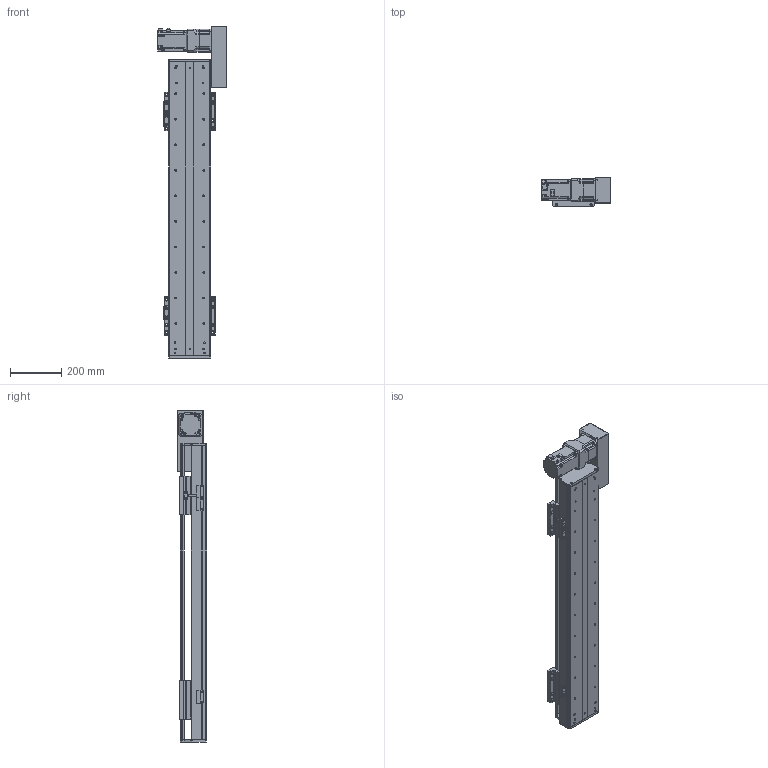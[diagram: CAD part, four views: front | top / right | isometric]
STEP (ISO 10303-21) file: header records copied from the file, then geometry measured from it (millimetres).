
FILE_DESCRIPTION(/* description */ (''),/* implementation_level */ '2;1');
FILE_NAME(/* name */ 'C:\Users\PC\Desktop\3D도면\STEP\DSB165-R7G-W0800-L.stp',/* time_stamp */ '2018-06-25T14:38:04+09:00',/* author */ ('PC'),/* organization */ (''),/* preprocessor_version */ 'ST-DEVELOPER v16.5',/* originating_system */ 'Autodesk Inventor 2017',/* authorisation */ '');
FILE_SCHEMA (('AUTOMOTIVE_DESIGN { 1 0 10303 214 3 1 1 }'));
Length unit declared in the file: millimetre
Products named in the file (12): DSB165-L7G-W0800-R_MIR; DSB165-BASE-L_MIR; hg-kr73__MIR; ab0901-p0401300102_MIR; 11-DSB165 BELT COVER_MIR; 12-DSB165-REAR COVER_MIR; 14-DSB165-FRONT COVER_MIR; DSB165-UP COVER_MIR; DSB165-TABLE(MSB20S)_MIR; DSR165-SENSOR DOG_MIR; pm-y65_step_MIR; SENSOR BRACKET(EE-SX674A)_MIR
Assembly tree (16 placements, depth 2):
  DSB165-L7G-W0800-R_MIR
    DSB165-BASE-L_MIR
    hg-kr73__MIR
    ab0901-p0401300102_MIR
    11-DSB165 BELT COVER_MIR
    12-DSB165-REAR COVER_MIR
    14-DSB165-FRONT COVER_MIR
    DSB165-UP COVER_MIR
    DSB165-TABLE(MSB20S)_MIR  x2
    DSR165-SENSOR DOG_MIR
    pm-y65_step_MIR  x3
    SENSOR BRACKET(EE-SX674A)_MIR  x3
Bounding box: 270 x 115 x 1300 mm (x, y, z)
Volume: 7952813.6 mm3; surface area: 1836013.6 mm2
Topology: 17 solids, 17 shells, 1661 faces, 4464 edges, 2942 vertices
Faces by surface type: plane 921, cylinder 616, cone 112, sphere 8, torus 4
Full cylindrical faces by diameter (mm): 2.459 x20, 3.5 x6, 4.134 x42, 4.5 x18, 5 x27, 5.5 x36, 5.9 x4, 6 x4, 6.6 x14, 6.647 x40, 6.8 x1, 7 x4, 7.6 x4, 8.4 x1, 8.5 x24, 8.7 x1, 9.5 x32, 11 x6, 14 x16, 19 x1, 22 x1, 24 x1, 25 x1, 28 x1, 67 x1, 70 x2, 80 x1
Entity records: 36004 total; most frequent: DIRECTION 6234, CARTESIAN_POINT 6051, ORIENTED_EDGE 5522, EDGE_CURVE 2761, AXIS2_PLACEMENT_3D 2287, VERTEX_POINT 1966, EDGE_LOOP 1719, LINE 1660
